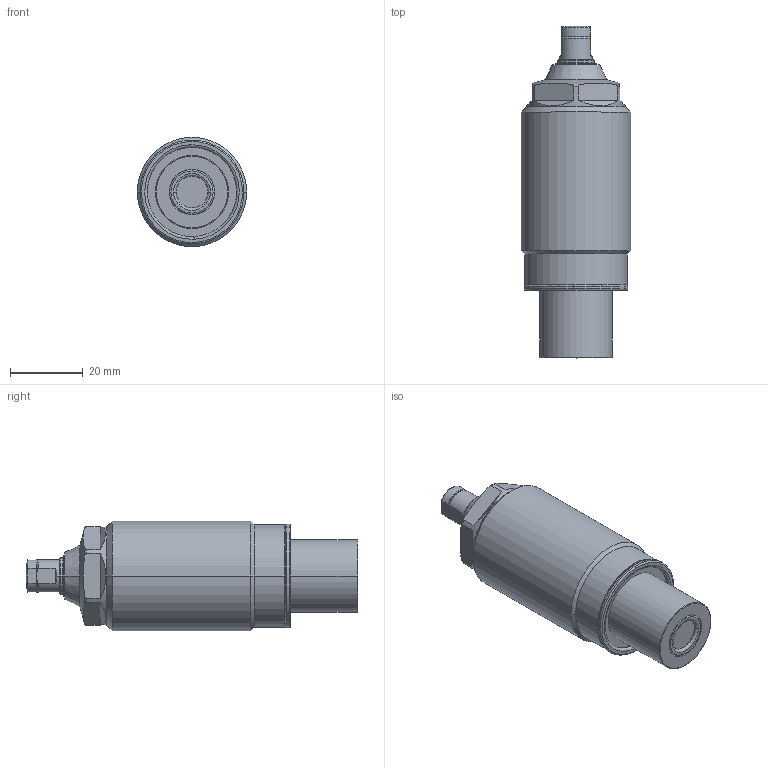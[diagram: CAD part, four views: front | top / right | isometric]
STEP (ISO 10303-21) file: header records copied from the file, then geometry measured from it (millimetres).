
FILE_DESCRIPTION(/* description */ (''),/* implementation_level */ '2;1');
FILE_NAME(/* name */ 'TNL30-Q.stp',/* time_stamp */ '2024-01-16T09:18:32+08:00',/* author */ (''),/* organization */ (''),/* preprocessor_version */ 'ST-DEVELOPER v16.7',/* originating_system */ 'SIEMENS PLM Software NX 12.0',/* authorisation */ '');
FILE_SCHEMA (('AP203_CONFIGURATION_CONTROLLED_3D_DESIGN_OF_MECHANICAL_PARTS_AND_ASSEMBLIES_MIM_LF { 1 0 10303 403 2 1 2}'));
Length unit declared in the file: millimetre
Products named in the file (6): TNL30-Q-5; TNL30-Q-4; TNL30-Q-3; TNL30-Q-2; TNL30-Q-1; WNC1003-Q_step
Assembly tree (5 placements, depth 2):
  WNC1003-Q_step
    TNL30-Q-1
    TNL30-Q-2
    TNL30-Q-3
    TNL30-Q-4
    TNL30-Q-5
Bounding box: 30 x 91 x 30 mm (x, y, z)
Volume: 45082.4 mm3; surface area: 9927.3 mm2
Topology: 5 solids, 5 shells, 144 faces, 316 edges, 191 vertices
Faces by surface type: torus 50, cylinder 38, plane 36, cone 18, sphere 2
Entity records: 5007 total; most frequent: CARTESIAN_POINT 1101, DIRECTION 758, ORIENTED_EDGE 632, AXIS2_PLACEMENT_3D 336, EDGE_CURVE 316, VERTEX_POINT 191, CIRCLE 186, EDGE_LOOP 157
